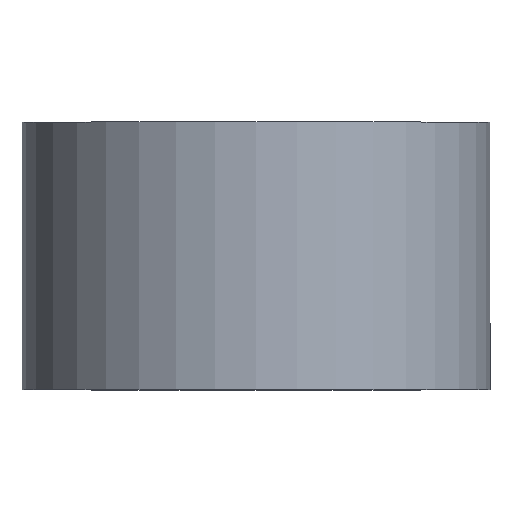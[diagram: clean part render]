
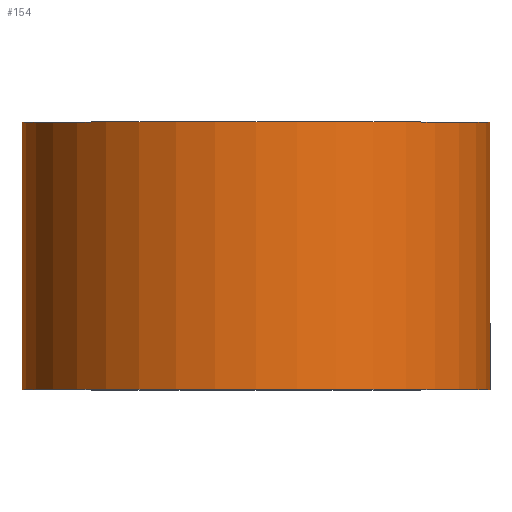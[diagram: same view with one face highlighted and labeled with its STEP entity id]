
A CAD part, top view. The second image highlights one B-rep face of the part: STEP entity #154.
In plain terms, the highlighted cylindrical face has radius 17.5 mm (diameter 35 mm), a partial arc.
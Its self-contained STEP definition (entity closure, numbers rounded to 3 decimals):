
#16 = VECTOR ( 'NONE', #185, 1000. ) ;
#20 = VERTEX_POINT ( 'NONE', #120 ) ;
#21 = CARTESIAN_POINT ( 'NONE',  ( -17.5, 20., 0. ) ) ;
#28 = DIRECTION ( 'NONE',  ( -1., 0., 0. ) ) ;
#30 = VERTEX_POINT ( 'NONE', #21 ) ;
#41 = AXIS2_PLACEMENT_3D ( 'NONE', #77, #74, #296 ) ;
#56 = AXIS2_PLACEMENT_3D ( 'NONE', #149, #203, #28 ) ;
#63 = ORIENTED_EDGE ( 'NONE', *, *, #189, .F. ) ;
#66 = EDGE_CURVE ( 'NONE', #30, #141, #188, .T. ) ;
#74 = DIRECTION ( 'NONE',  ( 0., 1., 0. ) ) ;
#77 = CARTESIAN_POINT ( 'NONE',  ( 0., 0., 0. ) ) ;
#99 = DIRECTION ( 'NONE',  ( 0., 1., 0. ) ) ;
#101 = CARTESIAN_POINT ( 'NONE',  ( 17.5, 20., 0. ) ) ;
#107 = ORIENTED_EDGE ( 'NONE', *, *, #66, .F. ) ;
#118 = LINE ( 'NONE', #138, #16 ) ;
#119 = DIRECTION ( 'NONE',  ( -1., 0., 0. ) ) ;
#120 = CARTESIAN_POINT ( 'NONE',  ( 17.5, 0., 0. ) ) ;
#124 = CIRCLE ( 'NONE', #56, 17.5 ) ;
#138 = CARTESIAN_POINT ( 'NONE',  ( 17.5, 0., 0. ) ) ;
#141 = VERTEX_POINT ( 'NONE', #101 ) ;
#145 = DIRECTION ( 'NONE',  ( 0., 1., 0. ) ) ;
#147 = ORIENTED_EDGE ( 'NONE', *, *, #206, .T. ) ;
#149 = CARTESIAN_POINT ( 'NONE',  ( 0., 0., 0. ) ) ;
#154 = ADVANCED_FACE ( 'NONE', ( #198 ), #256, .T. ) ;
#167 = AXIS2_PLACEMENT_3D ( 'NONE', #193, #145, #119 ) ;
#183 = LINE ( 'NONE', #244, #227 ) ;
#185 = DIRECTION ( 'NONE',  ( 0., 1., 0. ) ) ;
#188 = CIRCLE ( 'NONE', #167, 17.5 ) ;
#189 = EDGE_CURVE ( 'NONE', #200, #30, #183, .T. ) ;
#190 = EDGE_LOOP ( 'NONE', ( #147, #249, #107, #63 ) ) ;
#193 = CARTESIAN_POINT ( 'NONE',  ( 0., 20., 0. ) ) ;
#198 = FACE_OUTER_BOUND ( 'NONE', #190, .T. ) ;
#200 = VERTEX_POINT ( 'NONE', #289 ) ;
#203 = DIRECTION ( 'NONE',  ( 0., 1., 0. ) ) ;
#206 = EDGE_CURVE ( 'NONE', #200, #20, #124, .T. ) ;
#227 = VECTOR ( 'NONE', #99, 1000. ) ;
#244 = CARTESIAN_POINT ( 'NONE',  ( -17.5, 0., 0. ) ) ;
#249 = ORIENTED_EDGE ( 'NONE', *, *, #295, .T. ) ;
#256 = CYLINDRICAL_SURFACE ( 'NONE', #41, 17.5 ) ;
#289 = CARTESIAN_POINT ( 'NONE',  ( -17.5, 0., 0. ) ) ;
#295 = EDGE_CURVE ( 'NONE', #20, #141, #118, .T. ) ;
#296 = DIRECTION ( 'NONE',  ( -1., 0., 0. ) ) ;
